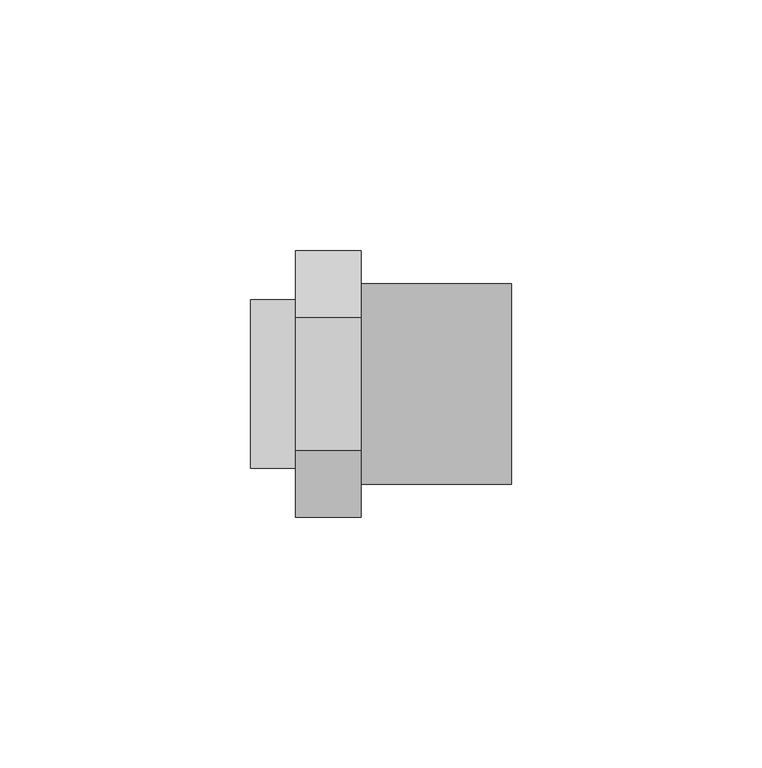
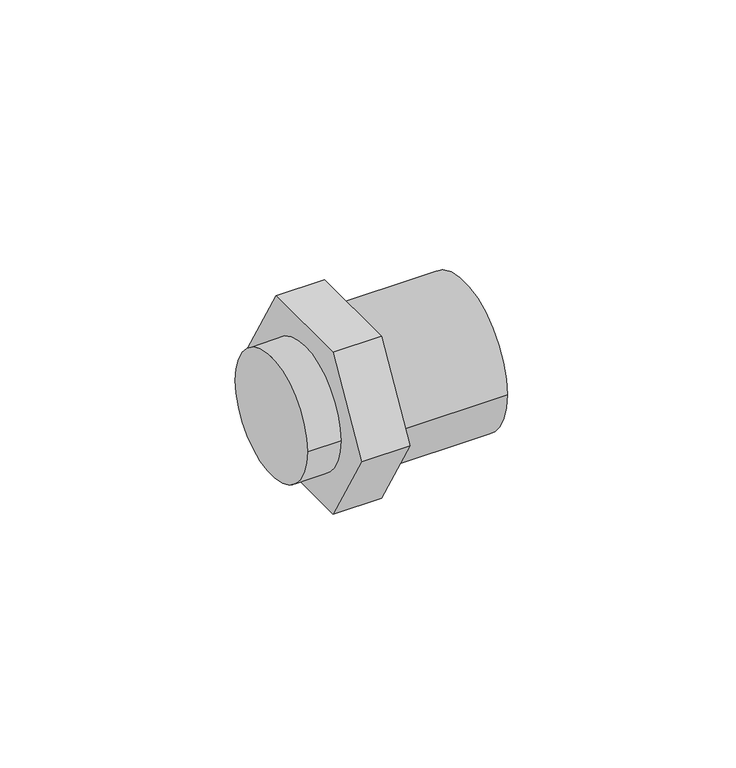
"""IFC4 building model written with IfcOpenShell, lengths in millimetres: pipe fitting geometry, 01101008_ : Manguitos multiplos H/M/H."""

from ifc_helpers import new_model, si_unit, point, frame, origin, origin_2d, place, context, project, spatial, polyline, circle_curve, trimmed, segment, composite_curve, outline, extrude, source, transform, mapped, element, save


def pipe_fitting_d369b5b1(model_context):
    return source(origin(), model_context, "Body", "SweptSolid", [
        extrude(outline(composite_curve([segment(trimmed(circle_curve(origin_2d(), 16.8), [point((16.8, 0.0))], [point((-16.8, 0.0))], False, "CARTESIAN"), True, "CONTINUOUS"), segment(trimmed(circle_curve(origin_2d(), 16.8), [point((-16.8, 0.0))], [point((16.8, 0.0))], False, "CARTESIAN"), True, "CONTINUOUS")], self_intersect=False)), frame((0.0, 0.0, 0.0), z_axis=(1.0, 0.0, 0.0), x_axis=(0.0, 1.0, 0.0)), (0.0, 0.0, 1.0), 9.0),
        extrude(outline(polyline([(-13.2790562, 23.0), (13.2790562, 23.0), (26.5581124, 0.0), (13.2790562, -23.0), (-13.2790562, -23.0), (-26.5581124, 0.0), (-13.2790562, 23.0)])), frame((9.0, 0.0, 0.0), z_axis=(1.0, 0.0, 0.0), x_axis=(0.0, 1.0, 0.0)), (0.0, 0.0, 1.0), 13.0),
        extrude(outline(composite_curve([segment(trimmed(circle_curve(origin_2d(), 20.0), [point((-20.0, 0.0))], [point((20.0, 0.0))], False, "CARTESIAN"), True, "CONTINUOUS"), segment(trimmed(circle_curve(origin_2d(), 20.0), [point((20.0, 0.0))], [point((-20.0, 0.0))], False, "CARTESIAN"), True, "CONTINUOUS")], self_intersect=False)), frame((22.0, 0.0, 0.0), z_axis=(1.0, 0.0, 0.0), x_axis=(0.0, 1.0, 0.0)), (0.0, 0.0, 1.0), 30.0),
    ])


if __name__ == "__main__":
    model = new_model("IFC4")
    model_context = context("Model", 3, world=origin())
    ifc_project = project(units=[si_unit("LENGTHUNIT", "METRE", prefix="MILLI")], contexts=[model_context])
    site = spatial("IfcSite", under=ifc_project)
    building = spatial("IfcBuilding", under=site)
    placement = place(None, origin())
    pipe_fitting_shape = pipe_fitting_d369b5b1(model_context)
    element("IfcPipeFitting", 1, ObjectType="01101008_ : Manguitos multiplos H/M/H", at=placement, inside=building, context=model_context, shape_type="MappedRepresentation", body=[
        mapped(pipe_fitting_shape, transform((0.0, 0.0, 0.0), x_axis=(1.0, 0.0, 0.0), y_axis=(0.0, 1.0, 0.0), z_axis=(0.0, 0.0, 1.0))),
    ])
    save(model, "model.ifc")
